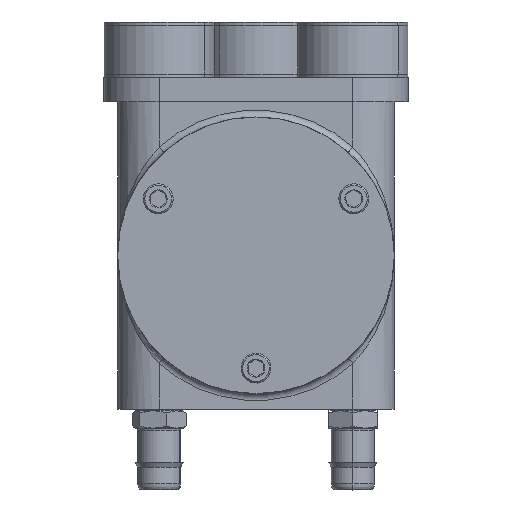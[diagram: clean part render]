
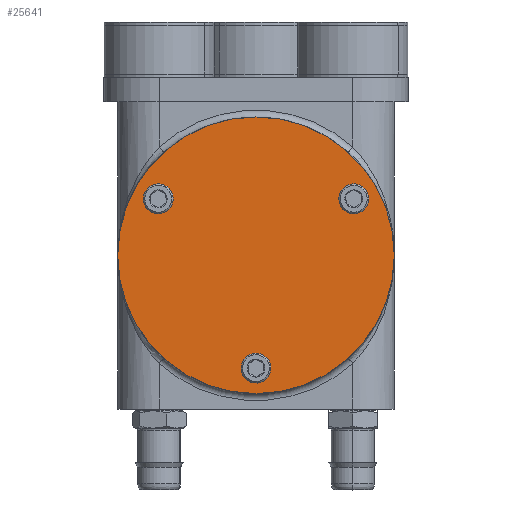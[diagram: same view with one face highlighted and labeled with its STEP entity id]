
A CAD part, top view. The second image highlights one B-rep face of the part: STEP entity #25641.
In plain terms, the highlighted planar face has unit normal (0, 0, 1).
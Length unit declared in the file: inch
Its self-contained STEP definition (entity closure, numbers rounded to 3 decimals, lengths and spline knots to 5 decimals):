
#631 = DIRECTION ( 'NONE',  ( 1., 0., 0. ) ) ;
#779 = FACE_BOUND ( 'NONE', #26034, .T. ) ;
#2957 = CIRCLE ( 'NONE', #32211, 0.0995 ) ;
#3971 = PLANE ( 'NONE',  #20027 ) ;
#4430 = CARTESIAN_POINT ( 'NONE',  ( 0., -1.02, 4.97016 ) ) ;
#4908 = CARTESIAN_POINT ( 'NONE',  ( -1.25, 0., 4.97016 ) ) ;
#5203 = CIRCLE ( 'NONE', #21771, 0.0995 ) ;
#5234 = EDGE_LOOP ( 'NONE', ( #15366, #10831 ) ) ;
#5664 = CARTESIAN_POINT ( 'NONE',  ( -0.0995, -1.02, 4.97016 ) ) ;
#6881 = VERTEX_POINT ( 'NONE', #14961 ) ;
#7313 = VERTEX_POINT ( 'NONE', #5664 ) ;
#7746 = DIRECTION ( 'NONE',  ( 1., 0., 0. ) ) ;
#8488 = CARTESIAN_POINT ( 'NONE',  ( 0.98285, 0.51, 4.97016 ) ) ;
#8921 = VERTEX_POINT ( 'NONE', #4908 ) ;
#9459 = ORIENTED_EDGE ( 'NONE', *, *, #15739, .F. ) ;
#10831 = ORIENTED_EDGE ( 'NONE', *, *, #19786, .F. ) ;
#11399 = DIRECTION ( 'NONE',  ( 0., 0., 1. ) ) ;
#11942 = VERTEX_POINT ( 'NONE', #29198 ) ;
#12218 = DIRECTION ( 'NONE',  ( 0., 0., 1. ) ) ;
#12386 = AXIS2_PLACEMENT_3D ( 'NONE', #28104, #11399, #30881 ) ;
#12408 = DIRECTION ( 'NONE',  ( 1., 0., 0. ) ) ;
#12663 = CARTESIAN_POINT ( 'NONE',  ( 0.88335, 0.51, 4.97016 ) ) ;
#12961 = DIRECTION ( 'NONE',  ( 0., 0., 1. ) ) ;
#13114 = DIRECTION ( 'NONE',  ( 0., 0., 1. ) ) ;
#13726 = ORIENTED_EDGE ( 'NONE', *, *, #26444, .F. ) ;
#13879 = FACE_OUTER_BOUND ( 'NONE', #31376, .T. ) ;
#13907 = CARTESIAN_POINT ( 'NONE',  ( 0., -1.02, 4.97016 ) ) ;
#14182 = ORIENTED_EDGE ( 'NONE', *, *, #33591, .F. ) ;
#14322 = CIRCLE ( 'NONE', #12386, 0.0995 ) ;
#14961 = CARTESIAN_POINT ( 'NONE',  ( 1.25, 0., 4.97016 ) ) ;
#15366 = ORIENTED_EDGE ( 'NONE', *, *, #27018, .F. ) ;
#15453 = DIRECTION ( 'NONE',  ( 1., 0., 0. ) ) ;
#15739 = EDGE_CURVE ( 'NONE', #24574, #25997, #5203, .T. ) ;
#16471 = AXIS2_PLACEMENT_3D ( 'NONE', #4430, #24419, #7746 ) ;
#16662 = CIRCLE ( 'NONE', #25389, 1.25 ) ;
#16707 = DIRECTION ( 'NONE',  ( 1., 0., 0. ) ) ;
#16884 = CIRCLE ( 'NONE', #25330, 0.0995 ) ;
#17312 = DIRECTION ( 'NONE',  ( 0., 0., 1. ) ) ;
#19219 = EDGE_CURVE ( 'NONE', #25997, #24574, #16884, .T. ) ;
#19479 = ORIENTED_EDGE ( 'NONE', *, *, #21499, .T. ) ;
#19786 = EDGE_CURVE ( 'NONE', #7313, #11942, #21235, .T. ) ;
#20027 = AXIS2_PLACEMENT_3D ( 'NONE', #23231, #29113, #12408 ) ;
#21235 = CIRCLE ( 'NONE', #16471, 0.0995 ) ;
#21293 = FACE_BOUND ( 'NONE', #5234, .T. ) ;
#21499 = EDGE_CURVE ( 'NONE', #6881, #8921, #16662, .T. ) ;
#21771 = AXIS2_PLACEMENT_3D ( 'NONE', #12663, #32129, #15453 ) ;
#22166 = CARTESIAN_POINT ( 'NONE',  ( -0.98285, 0.51, 4.97016 ) ) ;
#23231 = CARTESIAN_POINT ( 'NONE',  ( 0., 0., 4.97016 ) ) ;
#24419 = DIRECTION ( 'NONE',  ( 0., 0., 1. ) ) ;
#24574 = VERTEX_POINT ( 'NONE', #32470 ) ;
#24857 = EDGE_CURVE ( 'NONE', #8921, #6881, #36059, .T. ) ;
#24937 = AXIS2_PLACEMENT_3D ( 'NONE', #29662, #12961, #32429 ) ;
#25330 = AXIS2_PLACEMENT_3D ( 'NONE', #29834, #13114, #32596 ) ;
#25389 = AXIS2_PLACEMENT_3D ( 'NONE', #33966, #17312, #631 ) ;
#25641 = ADVANCED_FACE ( 'NONE', ( #21293, #36027, #779, #13879 ), #3971, .T. ) ;
#25997 = VERTEX_POINT ( 'NONE', #8488 ) ;
#26034 = EDGE_LOOP ( 'NONE', ( #29266, #9459 ) ) ;
#26444 = EDGE_CURVE ( 'NONE', #34648, #34088, #14322, .T. ) ;
#27018 = EDGE_CURVE ( 'NONE', #11942, #7313, #2957, .T. ) ;
#27498 = EDGE_LOOP ( 'NONE', ( #14182, #13726 ) ) ;
#28104 = CARTESIAN_POINT ( 'NONE',  ( -0.88335, 0.51, 4.97016 ) ) ;
#28839 = ORIENTED_EDGE ( 'NONE', *, *, #24857, .T. ) ;
#28927 = CARTESIAN_POINT ( 'NONE',  ( 0., 0., 4.97016 ) ) ;
#29113 = DIRECTION ( 'NONE',  ( 0., 0., 1. ) ) ;
#29198 = CARTESIAN_POINT ( 'NONE',  ( 0.0995, -1.02, 4.97016 ) ) ;
#29266 = ORIENTED_EDGE ( 'NONE', *, *, #19219, .F. ) ;
#29662 = CARTESIAN_POINT ( 'NONE',  ( -0.88335, 0.51, 4.97016 ) ) ;
#29834 = CARTESIAN_POINT ( 'NONE',  ( 0.88335, 0.51, 4.97016 ) ) ;
#30718 = CIRCLE ( 'NONE', #24937, 0.0995 ) ;
#30881 = DIRECTION ( 'NONE',  ( 1., 0., 0. ) ) ;
#31376 = EDGE_LOOP ( 'NONE', ( #19479, #28839 ) ) ;
#31698 = DIRECTION ( 'NONE',  ( 1., 0., 0. ) ) ;
#32129 = DIRECTION ( 'NONE',  ( 0., 0., 1. ) ) ;
#32211 = AXIS2_PLACEMENT_3D ( 'NONE', #13907, #33382, #16707 ) ;
#32429 = DIRECTION ( 'NONE',  ( 1., 0., 0. ) ) ;
#32470 = CARTESIAN_POINT ( 'NONE',  ( 0.78385, 0.51, 4.97016 ) ) ;
#32596 = DIRECTION ( 'NONE',  ( 1., 0., 0. ) ) ;
#32738 = CARTESIAN_POINT ( 'NONE',  ( -0.78385, 0.51, 4.97016 ) ) ;
#33327 = AXIS2_PLACEMENT_3D ( 'NONE', #28927, #12218, #31698 ) ;
#33382 = DIRECTION ( 'NONE',  ( 0., 0., 1. ) ) ;
#33591 = EDGE_CURVE ( 'NONE', #34088, #34648, #30718, .T. ) ;
#33966 = CARTESIAN_POINT ( 'NONE',  ( 0., 0., 4.97016 ) ) ;
#34088 = VERTEX_POINT ( 'NONE', #32738 ) ;
#34648 = VERTEX_POINT ( 'NONE', #22166 ) ;
#36027 = FACE_BOUND ( 'NONE', #27498, .T. ) ;
#36059 = CIRCLE ( 'NONE', #33327, 1.25 ) ;
